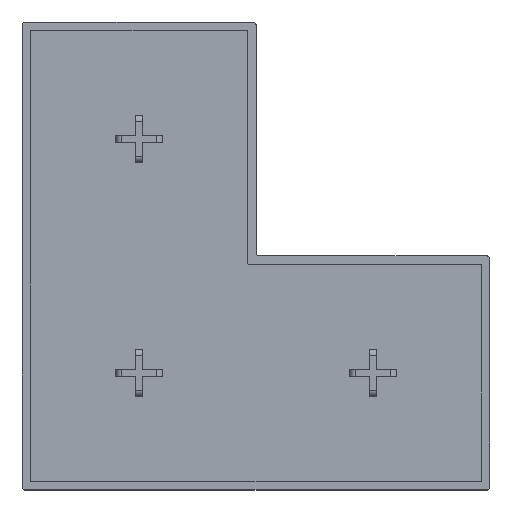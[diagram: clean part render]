
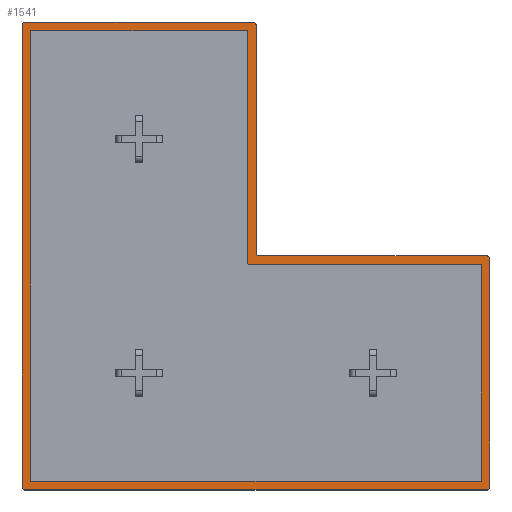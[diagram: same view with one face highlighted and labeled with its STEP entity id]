
A CAD part, top view. The second image highlights one B-rep face of the part: STEP entity #1541.
In plain terms, the highlighted planar face has unit normal (0, 0, 1).
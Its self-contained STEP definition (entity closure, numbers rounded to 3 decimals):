
#71=FACE_BOUND($,#234,.T.);
#72=FACE_BOUND($,#235,.T.);
#95=PLANE($,#1643);
#234=EDGE_LOOP($,(#1252,#1253,#1254,#1255,#1256,#1257,#1258));
#235=EDGE_LOOP($,(#1259,#1260,#1261,#1262,#1263,#1264,#1265,#1266,#1267,
#1268,#1269,#1270));
#367=LINE($,#2373,#585);
#370=LINE($,#2379,#588);
#371=LINE($,#2381,#589);
#372=LINE($,#2383,#590);
#373=LINE($,#2385,#591);
#374=LINE($,#2386,#592);
#375=LINE($,#2391,#593);
#376=LINE($,#2395,#594);
#377=LINE($,#2399,#595);
#378=LINE($,#2403,#596);
#379=LINE($,#2407,#597);
#380=LINE($,#2410,#598);
#585=VECTOR($,#1902,39.5);
#588=VECTOR($,#1907,39.5);
#589=VECTOR($,#1908,37.);
#590=VECTOR($,#1909,77.);
#591=VECTOR($,#1910,77.);
#592=VECTOR($,#1911,37.);
#593=VECTOR($,#1914,39.);
#594=VECTOR($,#1917,79.);
#595=VECTOR($,#1920,79.);
#596=VECTOR($,#1923,39.);
#597=VECTOR($,#1926,39.);
#598=VECTOR($,#1929,39.);
#739=CIRCLE($,#1640,0.5);
#741=CIRCLE($,#1644,0.5);
#742=CIRCLE($,#1645,0.5);
#743=CIRCLE($,#1646,0.5);
#744=CIRCLE($,#1647,0.5);
#745=CIRCLE($,#1648,0.5);
#746=CIRCLE($,#1649,0.5);
#836=VERTEX_POINT($,#2363);
#837=VERTEX_POINT($,#2364);
#840=VERTEX_POINT($,#2372);
#842=VERTEX_POINT($,#2378);
#843=VERTEX_POINT($,#2380);
#844=VERTEX_POINT($,#2382);
#845=VERTEX_POINT($,#2384);
#846=VERTEX_POINT($,#2387);
#847=VERTEX_POINT($,#2388);
#848=VERTEX_POINT($,#2390);
#849=VERTEX_POINT($,#2392);
#850=VERTEX_POINT($,#2394);
#851=VERTEX_POINT($,#2396);
#852=VERTEX_POINT($,#2398);
#853=VERTEX_POINT($,#2400);
#854=VERTEX_POINT($,#2402);
#855=VERTEX_POINT($,#2404);
#856=VERTEX_POINT($,#2406);
#857=VERTEX_POINT($,#2408);
#997=EDGE_CURVE($,#836,#837,#739,.T.);
#1001=EDGE_CURVE($,#840,#837,#367,.T.);
#1004=EDGE_CURVE($,#836,#842,#370,.T.);
#1005=EDGE_CURVE($,#842,#843,#371,.T.);
#1006=EDGE_CURVE($,#843,#844,#372,.T.);
#1007=EDGE_CURVE($,#844,#845,#373,.T.);
#1008=EDGE_CURVE($,#845,#840,#374,.T.);
#1009=EDGE_CURVE($,#846,#847,#741,.T.);
#1010=EDGE_CURVE($,#846,#848,#375,.T.);
#1011=EDGE_CURVE($,#849,#848,#742,.T.);
#1012=EDGE_CURVE($,#849,#850,#376,.T.);
#1013=EDGE_CURVE($,#851,#850,#743,.T.);
#1014=EDGE_CURVE($,#851,#852,#377,.T.);
#1015=EDGE_CURVE($,#853,#852,#744,.T.);
#1016=EDGE_CURVE($,#853,#854,#378,.T.);
#1017=EDGE_CURVE($,#855,#854,#745,.T.);
#1018=EDGE_CURVE($,#855,#856,#379,.T.);
#1019=EDGE_CURVE($,#857,#856,#746,.T.);
#1020=EDGE_CURVE($,#857,#847,#380,.T.);
#1252=ORIENTED_EDGE($,*,*,#997,.F.);
#1253=ORIENTED_EDGE($,*,*,#1004,.T.);
#1254=ORIENTED_EDGE($,*,*,#1005,.T.);
#1255=ORIENTED_EDGE($,*,*,#1006,.T.);
#1256=ORIENTED_EDGE($,*,*,#1007,.T.);
#1257=ORIENTED_EDGE($,*,*,#1008,.T.);
#1258=ORIENTED_EDGE($,*,*,#1001,.T.);
#1259=ORIENTED_EDGE($,*,*,#1009,.F.);
#1260=ORIENTED_EDGE($,*,*,#1010,.T.);
#1261=ORIENTED_EDGE($,*,*,#1011,.F.);
#1262=ORIENTED_EDGE($,*,*,#1012,.T.);
#1263=ORIENTED_EDGE($,*,*,#1013,.F.);
#1264=ORIENTED_EDGE($,*,*,#1014,.T.);
#1265=ORIENTED_EDGE($,*,*,#1015,.F.);
#1266=ORIENTED_EDGE($,*,*,#1016,.T.);
#1267=ORIENTED_EDGE($,*,*,#1017,.F.);
#1268=ORIENTED_EDGE($,*,*,#1018,.T.);
#1269=ORIENTED_EDGE($,*,*,#1019,.F.);
#1270=ORIENTED_EDGE($,*,*,#1020,.T.);
#1541=ADVANCED_FACE($,(#71,#72),#95,.T.);
#1640=AXIS2_PLACEMENT_3D($,#2365,#1894,#1895);
#1643=AXIS2_PLACEMENT_3D($,#2377,#1905,#1906);
#1644=AXIS2_PLACEMENT_3D($,#2389,#1912,#1913);
#1645=AXIS2_PLACEMENT_3D($,#2393,#1915,#1916);
#1646=AXIS2_PLACEMENT_3D($,#2397,#1918,#1919);
#1647=AXIS2_PLACEMENT_3D($,#2401,#1921,#1922);
#1648=AXIS2_PLACEMENT_3D($,#2405,#1924,#1925);
#1649=AXIS2_PLACEMENT_3D($,#2409,#1927,#1928);
#1894=DIRECTION('center_axis',(0.,0.,-1.));
#1895=DIRECTION('ref_axis',(-0.707,-0.707,0.));
#1902=DIRECTION($,(0.,-1.,0.));
#1905=DIRECTION('center_axis',(0.,0.,1.));
#1906=DIRECTION('ref_axis',(1.,0.,0.));
#1907=DIRECTION($,(1.,0.,0.));
#1908=DIRECTION($,(0.,-1.,0.));
#1909=DIRECTION($,(-1.,0.,0.));
#1910=DIRECTION($,(0.,1.,0.));
#1911=DIRECTION($,(1.,0.,0.));
#1912=DIRECTION('center_axis',(0.,0.,-1.));
#1913=DIRECTION('ref_axis',(0.707,0.707,0.));
#1914=DIRECTION($,(-1.,0.,0.));
#1915=DIRECTION('center_axis',(0.,0.,-1.));
#1916=DIRECTION('ref_axis',(-0.707,0.707,0.));
#1917=DIRECTION($,(0.,-1.,0.));
#1918=DIRECTION('center_axis',(0.,0.,-1.));
#1919=DIRECTION('ref_axis',(-0.707,-0.707,0.));
#1920=DIRECTION($,(1.,0.,0.));
#1921=DIRECTION('center_axis',(0.,0.,-1.));
#1922=DIRECTION('ref_axis',(0.707,-0.707,0.));
#1923=DIRECTION($,(0.,1.,0.));
#1924=DIRECTION('center_axis',(0.,0.,-1.));
#1925=DIRECTION('ref_axis',(0.707,0.707,0.));
#1926=DIRECTION($,(-1.,0.,0.));
#1927=DIRECTION('center_axis',(0.,0.,1.));
#1928=DIRECTION('ref_axis',(-0.707,-0.707,0.));
#1929=DIRECTION($,(0.,1.,0.));
#2363=CARTESIAN_POINT('',(200.089,38.616,5.));
#2364=CARTESIAN_POINT('',(199.589,39.116,5.));
#2365=CARTESIAN_POINT('Origin',(200.089,39.116,5.));
#2372=CARTESIAN_POINT('',(199.589,78.616,5.));
#2373=CARTESIAN_POINT($,(199.589,36.866,5.));
#2377=CARTESIAN_POINT('Origin',(196.089,35.116,5.));
#2378=CARTESIAN_POINT('',(239.589,38.616,5.));
#2379=CARTESIAN_POINT($,(217.839,38.616,5.));
#2380=CARTESIAN_POINT('',(239.589,1.616,5.));
#2381=CARTESIAN_POINT($,(239.589,18.366,5.));
#2382=CARTESIAN_POINT('',(162.589,1.616,5.));
#2383=CARTESIAN_POINT($,(179.339,1.616,5.));
#2384=CARTESIAN_POINT('',(162.589,78.616,5.));
#2385=CARTESIAN_POINT($,(162.589,56.866,5.));
#2386=CARTESIAN_POINT($,(197.839,78.616,5.));
#2387=CARTESIAN_POINT('',(200.589,80.116,5.));
#2388=CARTESIAN_POINT('',(201.089,79.616,5.));
#2389=CARTESIAN_POINT('Origin',(200.589,79.616,5.));
#2390=CARTESIAN_POINT('',(161.589,80.116,5.));
#2391=CARTESIAN_POINT($,(161.089,80.116,5.));
#2392=CARTESIAN_POINT('',(161.089,79.616,5.));
#2393=CARTESIAN_POINT('Origin',(161.589,79.616,5.));
#2394=CARTESIAN_POINT('',(161.089,0.616,5.));
#2395=CARTESIAN_POINT($,(161.089,40.116,5.));
#2396=CARTESIAN_POINT('',(161.589,0.116,5.));
#2397=CARTESIAN_POINT('Origin',(161.589,0.616,5.));
#2398=CARTESIAN_POINT('',(240.589,0.116,5.));
#2399=CARTESIAN_POINT($,(201.089,0.116,5.));
#2400=CARTESIAN_POINT('',(241.089,0.616,5.));
#2401=CARTESIAN_POINT('Origin',(240.589,0.616,5.));
#2402=CARTESIAN_POINT('',(241.089,39.616,5.));
#2403=CARTESIAN_POINT($,(241.089,40.116,5.));
#2404=CARTESIAN_POINT('',(240.589,40.116,5.));
#2405=CARTESIAN_POINT('Origin',(240.589,39.616,5.));
#2406=CARTESIAN_POINT('',(201.589,40.116,5.));
#2407=CARTESIAN_POINT($,(201.089,40.116,5.));
#2408=CARTESIAN_POINT('',(201.089,40.616,5.));
#2409=CARTESIAN_POINT('Origin',(201.589,40.616,5.));
#2410=CARTESIAN_POINT($,(201.089,80.116,5.));
